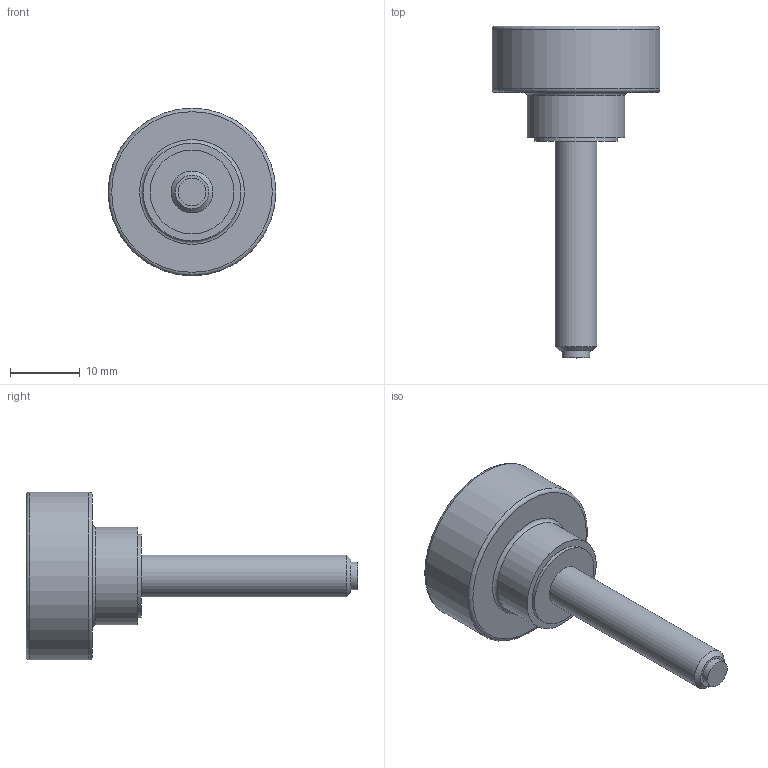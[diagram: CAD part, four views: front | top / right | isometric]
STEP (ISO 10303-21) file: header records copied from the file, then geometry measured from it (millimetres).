
FILE_DESCRIPTION( ( 'STEP AP203' ), '1' );
FILE_NAME( 'C:/Temp/Ganter_Step_05_03_2020/data/2_2/gn_421_10/Hollow knurled knob, with tip GN 421.10-M6-30-MS.stp', '2020-03-05T12:25:33', ( 'License CC BY-ND 4.0' ), ( 'CADENAS' ), ' ', 'PARTsolutions', ' ' );
FILE_SCHEMA( ( 'CONFIG_CONTROL_DESIGN' ) );
Length unit declared in the file: millimetre
Products named in the file (1): _Hollow knurled knob, with tip GN 421.10-M6-30-MS
Bounding box: 24 x 47.5 x 24 mm (x, y, z)
Volume: 4341.5 mm3; surface area: 2902.3 mm2
Topology: 1 solids, 1 shells, 19 faces, 30 edges, 19 vertices
Faces by surface type: plane 8, cylinder 7, torus 3, cone 1
Full cylindrical faces by diameter (mm): 4 x1, 6 x1, 10 x1, 12 x1, 14 x1, 20 x1, 24 x1
Entity records: 418 total; most frequent: DIRECTION 76, CARTESIAN_POINT 56, AXIS2_PLACEMENT_3D 38, EDGE_LOOP 36, ORIENTED_EDGE 36, FACE_OUTER_BOUND 29, ADVANCED_FACE 19, EDGE_CURVE 18
